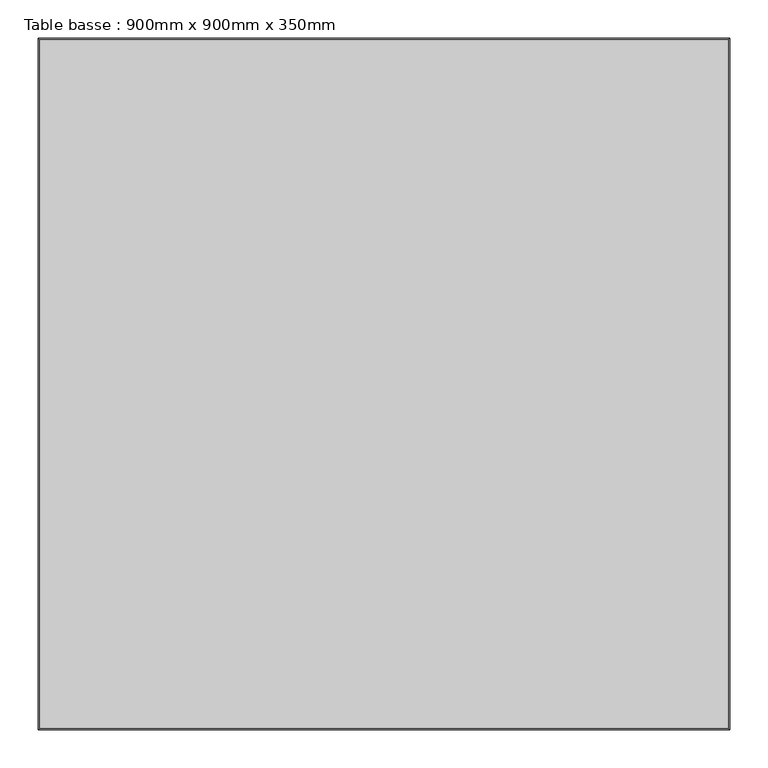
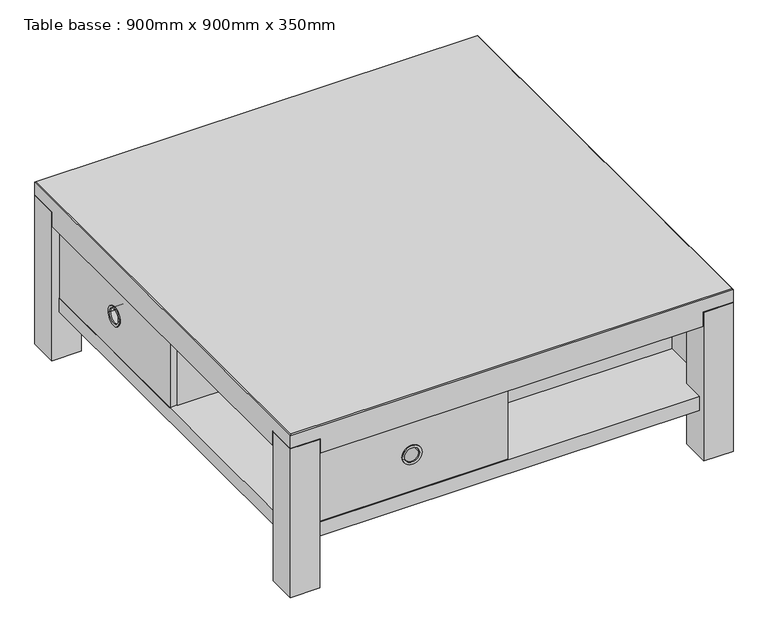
"""IFC4 building model written with IfcOpenShell, lengths in millimetres: furniture geometry, Table basse : 900mm x 900mm x 350mm."""

from ifc_helpers import new_model, si_unit, point, frame, frame_2d, origin, origin_with_axes, place, context, project, spatial, polyline, circle_curve, trimmed, segment, composite_curve, outline, extrude, faceted_brep, source, transform, mapped, element, save
from ifc_brep_helpers import plane_surface, revolved_surface, advanced_brep


def table_basse_900mm_x_900mm_x_350mm_34ae0bd3(model_context):
    return source(origin(), model_context, "Body", "SolidModel", [
        faceted_brep([(438.0, -171.8884232, 350.0), (438.0, 724.1115768, 350.0), (-458.0, 724.1115768, 350.0), (-458.0, -171.8884232, 350.0), (378.5, -173.8884232, 290.0), (-398.5, -173.8884232, 290.0), (-398.5, -112.3884232, 290.0), (-460.0, -112.3884232, 290.0), (-460.0, 664.6115768, 290.0), (-398.5, 664.6115768, 290.0), (-398.5, 726.1115768, 290.0), (378.5, 726.1115768, 290.0), (378.5, 664.6115768, 290.0), (440.0, 664.6115768, 290.0), (440.0, -112.3884232, 290.0), (378.5, -112.3884232, 290.0), (440.0, 664.6115768, 321.5), (440.0, 726.1115768, 321.5), (440.0, 726.1115768, 348.0), (440.0, -173.8884232, 348.0), (440.0, -173.8884232, 321.5), (440.0, -112.3884232, 321.5), (-398.5, 726.1115768, 321.5), (-460.0, 726.1115768, 321.5), (-460.0, 726.1115768, 348.0), (378.5, 726.1115768, 321.5), (-460.0, -112.3884232, 321.5), (-460.0, -173.8884232, 321.5), (-460.0, -173.8884232, 348.0), (-460.0, 664.6115768, 321.5), (378.5, -173.8884232, 321.5), (-398.5, -173.8884232, 321.5), (-398.5, 664.6115768, 321.5), (-398.5, -112.3884232, 321.5), (378.5, -112.3884232, 321.5), (378.5, 664.6115768, 321.5)], [[[0, 1, 2, 3]], [[4, 5, 6, 7, 8, 9, 10, 11, 12, 13, 14, 15]], [[14, 13, 16, 17, 18, 19, 20, 21]], [[11, 10, 22, 23, 24, 18, 17, 25]], [[8, 7, 26, 27, 28, 24, 23, 29]], [[5, 4, 30, 20, 19, 28, 27, 31]], [[22, 32, 29, 23]], [[33, 31, 27, 26]], [[30, 34, 21, 20]], [[16, 35, 25, 17]], [[29, 32, 9, 8]], [[32, 22, 10, 9]], [[33, 26, 7, 6]], [[31, 33, 6, 5]], [[21, 34, 15, 14]], [[34, 30, 4, 15]], [[25, 35, 12, 11]], [[35, 16, 13, 12]], [[18, 1, 0, 19]], [[1, 18, 24, 2]], [[2, 24, 28, 3]], [[19, 0, 3, 28]]]),
        extrude(outline(composite_curve([segment(trimmed(circle_curve(frame_2d((471.1115768, 210.0)), 20.0), [point((451.1115768, 210.0))], [point((491.1115768, 210.0))], False, "CARTESIAN"), True, "CONTINUOUS"), segment(trimmed(circle_curve(frame_2d((471.1115768, 210.0)), 20.0), [point((491.1115768, 210.0))], [point((451.1115768, 210.0))], False, "CARTESIAN"), True, "CONTINUOUS")], self_intersect=False), holes=[composite_curve([segment(trimmed(circle_curve(frame_2d((471.1115768, 210.0)), 15.0), [point((486.1115768, 210.0))], [point((456.1115768, 210.0))], True, "CARTESIAN"), True, "CONTINUOUS"), segment(trimmed(circle_curve(frame_2d((471.1115768, 210.0)), 15.0), [point((456.1115768, 210.0))], [point((486.1115768, 210.0))], True, "CARTESIAN"), True, "CONTINUOUS")], self_intersect=False)]), frame((-447.0, 0.0, 0.0), z_axis=(1.0, 0.0, 0.0), x_axis=(0.0, 1.0, 0.0)), (0.0, 0.0, 1.0), 2.0),
        extrude(outline(composite_curve([segment(trimmed(circle_curve(frame_2d((210.0, 185.0)), 20.0), [point((210.0, 205.0))], [point((210.0, 165.0))], False, "CARTESIAN"), True, "CONTINUOUS"), segment(trimmed(circle_curve(frame_2d((210.0, 185.0)), 20.0), [point((210.0, 165.0))], [point((210.0, 205.0))], False, "CARTESIAN"), True, "CONTINUOUS")], self_intersect=False), holes=[composite_curve([segment(trimmed(circle_curve(frame_2d((210.0, 185.0)), 15.0), [point((210.0, 200.0))], [point((210.0, 170.0))], True, "CARTESIAN"), True, "CONTINUOUS"), segment(trimmed(circle_curve(frame_2d((210.0, 185.0)), 15.0), [point((210.0, 170.0))], [point((210.0, 200.0))], True, "CARTESIAN"), True, "CONTINUOUS")], self_intersect=False)]), frame((0.0, 711.1115768, 0.0), z_axis=(0.0, 1.0, 0.0), x_axis=(0.0, 0.0, 1.0)), (0.0, 0.0, 1.0), 2.0),
        extrude(outline(composite_curve([segment(trimmed(circle_curve(frame_2d((81.1115768, 210.0)), 20.0), [point((101.1115768, 210.0))], [point((61.1115768, 210.0))], False, "CARTESIAN"), True, "CONTINUOUS"), segment(trimmed(circle_curve(frame_2d((81.1115768, 210.0)), 20.0), [point((61.1115768, 210.0))], [point((101.1115768, 210.0))], False, "CARTESIAN"), True, "CONTINUOUS")], self_intersect=False), holes=[composite_curve([segment(trimmed(circle_curve(frame_2d((81.1115768, 210.0)), 15.0), [point((66.1115768, 210.0))], [point((96.1115768, 210.0))], True, "CARTESIAN"), True, "CONTINUOUS"), segment(trimmed(circle_curve(frame_2d((81.1115768, 210.0)), 15.0), [point((96.1115768, 210.0))], [point((66.1115768, 210.0))], True, "CARTESIAN"), True, "CONTINUOUS")], self_intersect=False)]), frame((425.0, 0.0, 0.0), z_axis=(1.0, 0.0, 0.0), x_axis=(0.0, 1.0, 0.0)), (0.0, 0.0, 1.0), 2.0),
        extrude(outline(composite_curve([segment(trimmed(circle_curve(frame_2d((210.0, -205.0)), 20.0), [point((210.0, -225.0))], [point((210.0, -185.0))], False, "CARTESIAN"), True, "CONTINUOUS"), segment(trimmed(circle_curve(frame_2d((210.0, -205.0)), 20.0), [point((210.0, -185.0))], [point((210.0, -225.0))], False, "CARTESIAN"), True, "CONTINUOUS")], self_intersect=False), holes=[composite_curve([segment(trimmed(circle_curve(frame_2d((210.0, -205.0)), 15.0), [point((210.0, -190.0))], [point((210.0, -220.0))], True, "CARTESIAN"), True, "CONTINUOUS"), segment(trimmed(circle_curve(frame_2d((210.0, -205.0)), 15.0), [point((210.0, -220.0))], [point((210.0, -190.0))], True, "CARTESIAN"), True, "CONTINUOUS")], self_intersect=False)]), frame((0.0, -160.8884232, 0.0), z_axis=(0.0, 1.0, 0.0), x_axis=(0.0, 0.0, 1.0)), (0.0, 0.0, 1.0), 2.0),
        advanced_brep(
        [(-295.0, 276.1115768, 131.5), (-26.5, 276.1115768, 131.5), (-26.5, -145.3884232, 131.5), (-10.0, -145.3884232, 131.5), (-10.0, -158.8884232, 131.5), (-398.5, -158.8884232, 131.5), (-398.5, -145.3884232, 131.5), (-295.0, -145.3884232, 131.5), (-295.0, 276.1115768, 288.5), (-295.0, -145.3884232, 288.5), (-398.5, -145.3884232, 288.5), (-398.5, -158.8884232, 288.5), (-10.0, -158.8884232, 288.5), (-10.0, -145.3884232, 288.5), (-26.5, -145.3884232, 288.5), (-26.5, 276.1115768, 288.5), (-190.0, -158.8884232, 210.0), (-220.0, -158.8884232, 210.0), (-190.0, -108.8884232, 210.0), (-220.0, -108.8884232, 210.0)],
        [
            (0, 1),
            (1, 2),
            (2, 3),
            (3, 4),
            (4, 5),
            (5, 6),
            (6, 7),
            (7, 0),
            (8, 9),
            (9, 10),
            (10, 11),
            (11, 12),
            (12, 13),
            (13, 14),
            (14, 15),
            (15, 8),
            (0, 8),
            (15, 1),
            (14, 2),
            (13, 3),
            (12, 4),
            (11, 5),
            (16, 17, circle_curve(frame((-205.0, -158.8884232, 210.0), z_axis=(0.0, 1.0, 0.0), x_axis=(-1.0, 0.0, 0.0)), 15.0)),
            (17, 16, circle_curve(frame((-205.0, -158.8884232, 210.0), z_axis=(0.0, 1.0, 0.0), x_axis=(-1.0, 0.0, 0.0)), 15.0)),
            (10, 6),
            (9, 7),
            (18, 19, circle_curve(frame((-205.0, -108.8884232, 210.0), z_axis=(0.0, -1.0, 0.0), x_axis=(-1.0, 0.0, 0.0)), 15.0)),
            (19, 18, circle_curve(frame((-205.0, -108.8884232, 210.0), z_axis=(0.0, -1.0, 0.0), x_axis=(-1.0, 0.0, 0.0)), 15.0)),
            (19, 17),
            (16, 18),
        ],
        [
            plane_surface(frame((-26.5, 276.1115768, 131.5), z_axis=(0.0, 0.0, -1.0), x_axis=(1.0, 0.0, 0.0))),
            plane_surface(frame((-26.5, 276.1115768, 288.5), z_axis=(0.0, 0.0, 1.0), x_axis=(-1.0, 0.0, 0.0))),
            plane_surface(frame((-295.0, 276.1115768, 131.5), z_axis=(0.0, 1.0, 0.0), x_axis=(0.0, 0.0, 1.0))),
            plane_surface(frame((-26.5, 276.1115768, 131.5), z_axis=(1.0, 0.0, 0.0), x_axis=(0.0, 0.0, 1.0))),
            plane_surface(frame((-26.5, -145.3884232, 131.5), z_axis=(0.0, 1.0, 0.0), x_axis=(0.0, 0.0, 1.0))),
            plane_surface(frame((-10.0, -145.3884232, 131.5), z_axis=(1.0, 0.0, 0.0), x_axis=(0.0, 0.0, 1.0))),
            plane_surface(frame((-10.0, -158.8884232, 131.5), z_axis=(0.0, -1.0, 0.0), x_axis=(0.0, 0.0, 1.0))),
            plane_surface(frame((-398.5, -158.8884232, 131.5), z_axis=(-1.0, 0.0, 0.0), x_axis=(0.0, 0.0, 1.0))),
            plane_surface(frame((-398.5, -145.3884232, 131.5), z_axis=(0.0, 1.0, 0.0), x_axis=(0.0, 0.0, 1.0))),
            plane_surface(frame((-295.0, -145.3884232, 131.5), z_axis=(-1.0, 0.0, 0.0), x_axis=(0.0, 0.0, 1.0))),
            plane_surface(frame((-220.0, -108.8884232, 210.0), z_axis=(0.0, -1.0, 0.0), x_axis=(0.0, 0.0, 1.0))),
            revolved_surface(polyline([(-220.0, -108.8884232, 210.0), (-220.0, -158.8884232, 210.0)]), (-205.0, -158.8884232, 210.0), (0.0, 1.0, 0.0)),
        ],
        [
            (0, [[1, 2, 3, 4, 5, 6, 7, 8]]),
            (1, [[9, 10, 11, 12, 13, 14, 15, 16]]),
            (2, [[-1, 17, -16, 18]]),
            (3, [[-2, -18, -15, 19]]),
            (4, [[-3, -19, -14, 20]]),
            (5, [[-4, -20, -13, 21]]),
            (6, [[-5, -21, -12, 22], [23, 24]]),
            (7, [[-6, -22, -11, 25]]),
            (8, [[-7, -25, -10, 26]]),
            (9, [[-8, -26, -9, -17]]),
            (10, [[27, 28]]),
            (11, [[-28, 29, -23, 30]]),
            (11, [[-27, -30, -24, -29]]),
        ],
    ),
        advanced_brep(
        [(-10.0, -8.8884232, 131.5), (-10.0, 259.6115768, 131.5), (411.5, 259.6115768, 131.5), (411.5, 276.1115768, 131.5), (425.0, 276.1115768, 131.5), (425.0, -112.3884232, 131.5), (411.5, -112.3884232, 131.5), (411.5, -8.8884232, 131.5), (-10.0, -8.8884232, 288.5), (411.5, -8.8884232, 288.5), (411.5, -112.3884232, 288.5), (425.0, -112.3884232, 288.5), (425.0, 276.1115768, 288.5), (411.5, 276.1115768, 288.5), (411.5, 259.6115768, 288.5), (-10.0, 259.6115768, 288.5), (425.0, 66.1115768, 210.0), (425.0, 96.1115768, 210.0), (375.0, 66.1115768, 210.0), (375.0, 96.1115768, 210.0)],
        [
            (0, 1),
            (1, 2),
            (2, 3),
            (3, 4),
            (4, 5),
            (5, 6),
            (6, 7),
            (7, 0),
            (8, 9),
            (9, 10),
            (10, 11),
            (11, 12),
            (12, 13),
            (13, 14),
            (14, 15),
            (15, 8),
            (0, 8),
            (15, 1),
            (14, 2),
            (13, 3),
            (12, 4),
            (11, 5),
            (16, 17, circle_curve(frame((425.0, 81.1115768, 210.0), z_axis=(-1.0, 0.0, 0.0), x_axis=(0.0, 1.0, 0.0)), 15.0)),
            (17, 16, circle_curve(frame((425.0, 81.1115768, 210.0), z_axis=(-1.0, 0.0, 0.0), x_axis=(0.0, 1.0, 0.0)), 15.0)),
            (10, 6),
            (9, 7),
            (18, 19, circle_curve(frame((375.0, 81.1115768, 210.0), z_axis=(1.0, 0.0, 0.0), x_axis=(0.0, 1.0, 0.0)), 15.0)),
            (19, 18, circle_curve(frame((375.0, 81.1115768, 210.0), z_axis=(1.0, 0.0, 0.0), x_axis=(0.0, 1.0, 0.0)), 15.0)),
            (19, 17),
            (16, 18),
        ],
        [
            plane_surface(frame((-26.5, 276.1115768, 131.5), z_axis=(0.0, 0.0, -1.0), x_axis=(1.0, 0.0, 0.0))),
            plane_surface(frame((-26.5, 276.1115768, 288.5), z_axis=(0.0, 0.0, 1.0), x_axis=(-1.0, 0.0, 0.0))),
            plane_surface(frame((-10.0, -8.8884232, 131.5), z_axis=(-1.0, 0.0, 0.0), x_axis=(0.0, 0.0, 1.0))),
            plane_surface(frame((-10.0, 259.6115768, 131.5), z_axis=(0.0, 1.0, 0.0), x_axis=(0.0, 0.0, 1.0))),
            plane_surface(frame((411.5, 259.6115768, 131.5), z_axis=(-1.0, 0.0, 0.0), x_axis=(0.0, 0.0, 1.0))),
            plane_surface(frame((411.5, 276.1115768, 131.5), z_axis=(0.0, 1.0, 0.0), x_axis=(0.0, 0.0, 1.0))),
            plane_surface(frame((425.0, 276.1115768, 131.5), z_axis=(1.0, 0.0, 0.0), x_axis=(0.0, 0.0, 1.0))),
            plane_surface(frame((425.0, -112.3884232, 131.5), z_axis=(0.0, -1.0, 0.0), x_axis=(0.0, 0.0, 1.0))),
            plane_surface(frame((411.5, -112.3884232, 131.5), z_axis=(-1.0, 0.0, 0.0), x_axis=(0.0, 0.0, 1.0))),
            plane_surface(frame((411.5, -8.8884232, 131.5), z_axis=(0.0, -1.0, 0.0), x_axis=(0.0, 0.0, 1.0))),
            plane_surface(frame((375.0, 96.1115768, 210.0), z_axis=(1.0, 0.0, 0.0), x_axis=(0.0, 0.0, -1.0))),
            revolved_surface(polyline([(375.0, 96.1115768, 210.0), (425.0, 96.1115768, 210.0)]), (425.0, 81.1115768, 210.0), (-1.0, 0.0, 0.0)),
        ],
        [
            (0, [[1, 2, 3, 4, 5, 6, 7, 8]]),
            (1, [[9, 10, 11, 12, 13, 14, 15, 16]]),
            (2, [[-1, 17, -16, 18]]),
            (3, [[-2, -18, -15, 19]]),
            (4, [[-3, -19, -14, 20]]),
            (5, [[-4, -20, -13, 21]]),
            (6, [[-5, -21, -12, 22], [23, 24]]),
            (7, [[-6, -22, -11, 25]]),
            (8, [[-7, -25, -10, 26]]),
            (9, [[-8, -26, -9, -17]]),
            (10, [[27, 28]]),
            (11, [[-28, 29, -23, 30]]),
            (11, [[-27, -30, -24, -29]]),
        ],
    ),
        advanced_brep(
        [(-10.0, 697.6115768, 131.5), (-10.0, 711.1115768, 131.5), (378.5, 711.1115768, 131.5), (378.5, 697.6115768, 131.5), (275.0, 697.6115768, 131.5), (275.0, 276.1115768, 131.5), (6.5, 276.1115768, 131.5), (6.5, 697.6115768, 131.5), (-10.0, 697.6115768, 288.5), (6.5, 697.6115768, 288.5), (6.5, 276.1115768, 288.5), (275.0, 276.1115768, 288.5), (275.0, 697.6115768, 288.5), (378.5, 697.6115768, 288.5), (378.5, 711.1115768, 288.5), (-10.0, 711.1115768, 288.5), (170.0, 711.1115768, 210.0), (200.0, 711.1115768, 210.0), (170.0, 661.1115768, 210.0), (200.0, 661.1115768, 210.0)],
        [
            (0, 1),
            (1, 2),
            (2, 3),
            (3, 4),
            (4, 5),
            (5, 6),
            (6, 7),
            (7, 0),
            (8, 9),
            (9, 10),
            (10, 11),
            (11, 12),
            (12, 13),
            (13, 14),
            (14, 15),
            (15, 8),
            (0, 8),
            (15, 1),
            (14, 2),
            (16, 17, circle_curve(frame((185.0, 711.1115768, 210.0), z_axis=(0.0, -1.0, 0.0), x_axis=(1.0, 0.0, 0.0)), 15.0)),
            (17, 16, circle_curve(frame((185.0, 711.1115768, 210.0), z_axis=(0.0, -1.0, 0.0), x_axis=(1.0, 0.0, 0.0)), 15.0)),
            (13, 3),
            (12, 4),
            (11, 5),
            (10, 6),
            (9, 7),
            (18, 19, circle_curve(frame((185.0, 661.1115768, 210.0), z_axis=(0.0, 1.0, 0.0), x_axis=(1.0, 0.0, 0.0)), 15.0)),
            (19, 18, circle_curve(frame((185.0, 661.1115768, 210.0), z_axis=(0.0, 1.0, 0.0), x_axis=(1.0, 0.0, 0.0)), 15.0)),
            (19, 17),
            (16, 18),
        ],
        [
            plane_surface(frame((-26.5, 276.1115768, 131.5), z_axis=(0.0, 0.0, -1.0), x_axis=(1.0, 0.0, 0.0))),
            plane_surface(frame((-26.5, 276.1115768, 288.5), z_axis=(0.0, 0.0, 1.0), x_axis=(-1.0, 0.0, 0.0))),
            plane_surface(frame((-10.0, 697.6115768, 131.5), z_axis=(-1.0, 0.0, 0.0), x_axis=(0.0, 0.0, 1.0))),
            plane_surface(frame((-10.0, 711.1115768, 131.5), z_axis=(0.0, 1.0, 0.0), x_axis=(0.0, 0.0, 1.0))),
            plane_surface(frame((378.5, 711.1115768, 131.5), z_axis=(1.0, 0.0, 0.0), x_axis=(0.0, 0.0, 1.0))),
            plane_surface(frame((378.5, 697.6115768, 131.5), z_axis=(0.0, -1.0, 0.0), x_axis=(0.0, 0.0, 1.0))),
            plane_surface(frame((275.0, 697.6115768, 131.5), z_axis=(1.0, 0.0, 0.0), x_axis=(0.0, 0.0, 1.0))),
            plane_surface(frame((275.0, 276.1115768, 131.5), z_axis=(0.0, -1.0, 0.0), x_axis=(0.0, 0.0, 1.0))),
            plane_surface(frame((6.5, 276.1115768, 131.5), z_axis=(-1.0, 0.0, 0.0), x_axis=(0.0, 0.0, 1.0))),
            plane_surface(frame((6.5, 697.6115768, 131.5), z_axis=(0.0, -1.0, 0.0), x_axis=(0.0, 0.0, 1.0))),
            plane_surface(frame((200.0, 661.1115768, 210.0), z_axis=(0.0, 1.0, 0.0), x_axis=(0.0, 0.0, 1.0))),
            revolved_surface(polyline([(200.0, 661.1115768, 210.0), (200.0, 711.1115768, 210.0)]), (185.0, 711.1115768, 210.0), (0.0, -1.0, 0.0)),
        ],
        [
            (0, [[1, 2, 3, 4, 5, 6, 7, 8]]),
            (1, [[9, 10, 11, 12, 13, 14, 15, 16]]),
            (2, [[-1, 17, -16, 18]]),
            (3, [[-2, -18, -15, 19], [20, 21]]),
            (4, [[-3, -19, -14, 22]]),
            (5, [[-4, -22, -13, 23]]),
            (6, [[-5, -23, -12, 24]]),
            (7, [[-6, -24, -11, 25]]),
            (8, [[-7, -25, -10, 26]]),
            (9, [[-8, -26, -9, -17]]),
            (10, [[27, 28]]),
            (11, [[-28, 29, -20, 30]]),
            (11, [[-27, -30, -21, -29]]),
        ],
    ),
        advanced_brep(
        [(-431.5, 292.6115768, 131.5), (-431.5, 276.1115768, 131.5), (-445.0, 276.1115768, 131.5), (-445.0, 664.6115768, 131.5), (-431.5, 664.6115768, 131.5), (-431.5, 561.1115768, 131.5), (-10.0, 561.1115768, 131.5), (-10.0, 292.6115768, 131.5), (-431.5, 292.6115768, 288.5), (-10.0, 292.6115768, 288.5), (-10.0, 561.1115768, 288.5), (-431.5, 561.1115768, 288.5), (-431.5, 664.6115768, 288.5), (-445.0, 664.6115768, 288.5), (-445.0, 276.1115768, 288.5), (-431.5, 276.1115768, 288.5), (-445.0, 486.1115768, 210.0), (-445.0, 456.1115768, 210.0), (-395.0, 486.1115768, 210.0), (-395.0, 456.1115768, 210.0)],
        [
            (0, 1),
            (1, 2),
            (2, 3),
            (3, 4),
            (4, 5),
            (5, 6),
            (6, 7),
            (7, 0),
            (8, 9),
            (9, 10),
            (10, 11),
            (11, 12),
            (12, 13),
            (13, 14),
            (14, 15),
            (15, 8),
            (0, 8),
            (15, 1),
            (14, 2),
            (13, 3),
            (16, 17, circle_curve(frame((-445.0, 471.1115768, 210.0), z_axis=(1.0, 0.0, 0.0), x_axis=(0.0, -1.0, 0.0)), 15.0)),
            (17, 16, circle_curve(frame((-445.0, 471.1115768, 210.0), z_axis=(1.0, 0.0, 0.0), x_axis=(0.0, -1.0, 0.0)), 15.0)),
            (12, 4),
            (11, 5),
            (10, 6),
            (9, 7),
            (18, 19, circle_curve(frame((-395.0, 471.1115768, 210.0), z_axis=(-1.0, 0.0, 0.0), x_axis=(0.0, -1.0, 0.0)), 15.0)),
            (19, 18, circle_curve(frame((-395.0, 471.1115768, 210.0), z_axis=(-1.0, 0.0, 0.0), x_axis=(0.0, -1.0, 0.0)), 15.0)),
            (19, 17),
            (16, 18),
        ],
        [
            plane_surface(frame((-26.5, 276.1115768, 131.5), z_axis=(0.0, 0.0, -1.0), x_axis=(1.0, 0.0, 0.0))),
            plane_surface(frame((-26.5, 276.1115768, 288.5), z_axis=(0.0, 0.0, 1.0), x_axis=(-1.0, 0.0, 0.0))),
            plane_surface(frame((-431.5, 292.6115768, 131.5), z_axis=(1.0, 0.0, 0.0), x_axis=(0.0, 0.0, 1.0))),
            plane_surface(frame((-431.5, 276.1115768, 131.5), z_axis=(0.0, -1.0, 0.0), x_axis=(0.0, 0.0, 1.0))),
            plane_surface(frame((-445.0, 276.1115768, 131.5), z_axis=(-1.0, 0.0, 0.0), x_axis=(0.0, 0.0, 1.0))),
            plane_surface(frame((-445.0, 664.6115768, 131.5), z_axis=(0.0, 1.0, 0.0), x_axis=(0.0, 0.0, 1.0))),
            plane_surface(frame((-431.5, 664.6115768, 131.5), z_axis=(1.0, 0.0, 0.0), x_axis=(0.0, 0.0, 1.0))),
            plane_surface(frame((-431.5, 561.1115768, 131.5), z_axis=(0.0, 1.0, 0.0), x_axis=(0.0, 0.0, 1.0))),
            plane_surface(frame((-10.0, 561.1115768, 131.5), z_axis=(1.0, 0.0, 0.0), x_axis=(0.0, 0.0, 1.0))),
            plane_surface(frame((-10.0, 292.6115768, 131.5), z_axis=(0.0, -1.0, 0.0), x_axis=(0.0, 0.0, 1.0))),
            plane_surface(frame((-395.0, 456.1115768, 210.0), z_axis=(-1.0, 0.0, 0.0), x_axis=(0.0, 0.0, -1.0))),
            revolved_surface(polyline([(-395.0, 456.1115768, 210.0), (-445.0, 456.1115768, 210.0)]), (-445.0, 471.1115768, 210.0), (1.0, 0.0, 0.0)),
        ],
        [
            (0, [[1, 2, 3, 4, 5, 6, 7, 8]]),
            (1, [[9, 10, 11, 12, 13, 14, 15, 16]]),
            (2, [[-1, 17, -16, 18]]),
            (3, [[-2, -18, -15, 19]]),
            (4, [[-3, -19, -14, 20], [21, 22]]),
            (5, [[-4, -20, -13, 23]]),
            (6, [[-5, -23, -12, 24]]),
            (7, [[-6, -24, -11, 25]]),
            (8, [[-7, -25, -10, 26]]),
            (9, [[-8, -26, -9, -17]]),
            (10, [[27, 28]]),
            (11, [[-28, 29, -21, 30]]),
            (11, [[-27, -30, -22, -29]]),
        ],
    ),
        extrude(outline(polyline([(-430.0, 276.1115768), (-430.0, 291.1115768), (-10.0, 291.1115768), (-10.0, 696.1115768), (5.0, 696.1115768), (5.0, 276.1115768), (410.0, 276.1115768), (410.0, 261.1115768), (-10.0, 261.1115768), (-10.0, -143.8884232), (-25.0, -143.8884232), (-25.0, 276.1115768), (-430.0, 276.1115768)])), frame((0.0, 0.0, 130.0), z_axis=(0.0, 0.0, 1.0), x_axis=(1.0, 0.0, 0.0)), (0.0, 0.0, 1.0), 160.0),
        extrude(outline(polyline([(-445.0, 666.1115768), (-400.0, 666.1115768), (-400.0, 711.1115768), (380.0, 711.1115768), (380.0, 666.1115768), (425.0, 666.1115768), (425.0, -113.8884232), (380.0, -113.8884232), (380.0, -158.8884232), (-400.0, -158.8884232), (-400.0, -113.8884232), (-445.0, -113.8884232), (-445.0, 666.1115768)])), frame((0.0, 0.0, 100.0), z_axis=(0.0, 0.0, 1.0), x_axis=(1.0, 0.0, 0.0)), (0.0, 0.0, 1.0), 30.0),
        extrude(outline(polyline([(-400.0, -173.8884232), (-460.0, -173.8884232), (-460.0, -113.8884232), (-400.0, -113.8884232), (-400.0, -173.8884232)])), origin_with_axes(), (0.0, 0.0, 1.0), 320.0),
        extrude(outline(polyline([(-400.0, 666.1115768), (-460.0, 666.1115768), (-460.0, 726.1115768), (-400.0, 726.1115768), (-400.0, 666.1115768)])), origin_with_axes(), (0.0, 0.0, 1.0), 320.0),
        extrude(outline(polyline([(440.0, 666.1115768), (380.0, 666.1115768), (380.0, 726.1115768), (440.0, 726.1115768), (440.0, 666.1115768)])), origin_with_axes(), (0.0, 0.0, 1.0), 320.0),
        extrude(outline(polyline([(440.0, -173.8884232), (380.0, -173.8884232), (380.0, -113.8884232), (440.0, -113.8884232), (440.0, -173.8884232)])), origin_with_axes(), (0.0, 0.0, 1.0), 320.0),
    ])


if __name__ == "__main__":
    model = new_model("IFC4")
    model_context = context("Model", 3, world=origin())
    ifc_project = project(units=[si_unit("LENGTHUNIT", "METRE", prefix="MILLI")], contexts=[model_context])
    site = spatial("IfcSite", under=ifc_project)
    building = spatial("IfcBuilding", under=site)
    placement = place(None, origin())
    table_basse_900mm_x_900mm_x_350mm_shape = table_basse_900mm_x_900mm_x_350mm_34ae0bd3(model_context)
    element("IfcFurniture", 1, ObjectType="Table basse : 900mm x 900mm x 350mm", at=placement, inside=building, context=model_context, shape_type="MappedRepresentation", body=[
        mapped(table_basse_900mm_x_900mm_x_350mm_shape, transform((0.0, 0.0, 0.0), x_axis=(1.0, 0.0, 0.0), y_axis=(0.0, 1.0, 0.0), z_axis=(0.0, 0.0, 1.0))),
    ])
    save(model, "model.ifc")
